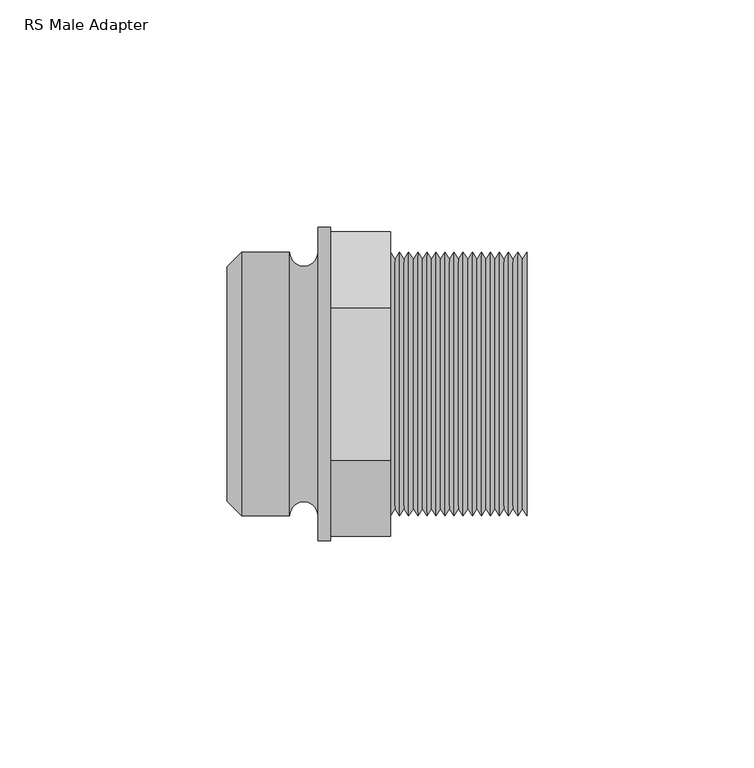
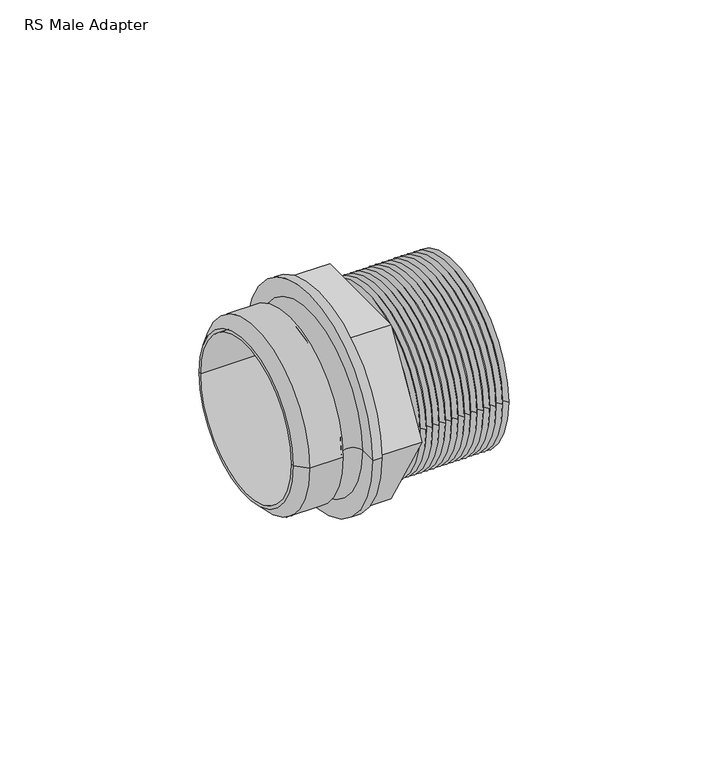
"""IFC4 building model written with IfcOpenShell, lengths in millimetres: pipe fitting geometry, RS Male Adapter : Superpipe RS2 MT Adapter 2”."""

import ifcopenshell
import ifcopenshell.guid

model = None  # the IFC model being written
_history = None  # IfcOwnerHistory: only IFC2X3 demands one
_inside = {}  # id of a spatial element -> (the spatial element, [elements in it])
_under = {}  # id of a project, library or spatial element -> (it, [spatial elements below it])
_declared = {}  # id of a project -> (the project, [libraries it declares])
_typed = {}  # id of a type object -> (the type object, [elements of that type])
_made_of = {}  # id of a material, layer set ... -> (it, [elements and type objects made of it])


def new_model(schema):
    """Start an empty IFC model of exactly this schema.

    Asked for "IFC4X3", IfcOpenShell would pick the latest addendum, in which some entities
    have other attributes; the version numbers below select the first issue.
    IFC2X3 requires an IfcOwnerHistory on every rooted entity: one is made here for all.
    """
    global model, _history
    if schema == "IFC4X3":
        model = ifcopenshell.file(schema_version=(4, 3, 0, 0))
    else:
        model = ifcopenshell.file(schema=schema)
    _inside.clear()
    _under.clear()
    _declared.clear()
    _typed.clear()
    _made_of.clear()
    _history = None
    if model.schema == "IFC2X3":
        org = make("IfcOrganization", Name="unknown")
        user = make(
            "IfcPersonAndOrganization",
            ThePerson=make("IfcPerson", FamilyName="unknown"),
            TheOrganization=org,
        )
        app = make(
            "IfcApplication",
            ApplicationDeveloper=org,
            Version="unknown",
            ApplicationFullName="unknown",
            ApplicationIdentifier="unknown",
        )
        _history = make(
            "IfcOwnerHistory",
            OwningUser=user,
            OwningApplication=app,
            ChangeAction="ADDED",
            CreationDate=0,
        )
    return model


def make(cls, **values):
    """One entity of the class cls with the attributes given. An attribute that is None is left unset."""
    return model.create_entity(
        cls, **{name: value for name, value in values.items() if value is not None}
    )


def rooted(cls, **values):
    """An entity with a GlobalId (a new one), such as an element, a storey or a relation."""
    return make(cls, GlobalId=ifcopenshell.guid.new(), OwnerHistory=_history, **values)


def si_unit(unit_type, name, prefix=None):
    """IfcSIUnit, for example si_unit("LENGTHUNIT", "METRE", prefix="MILLI")."""
    return make("IfcSIUnit", UnitType=unit_type, Prefix=prefix, Name=name)


def assignment(units):
    """IfcUnitAssignment: the units of a project."""
    return None if units is None else make("IfcUnitAssignment", Units=units)


def point(xyz):
    """IfcCartesianPoint."""
    return None if xyz is None else make("IfcCartesianPoint", Coordinates=xyz)


def direction(xyz):
    """IfcDirection."""
    return None if xyz is None else make("IfcDirection", DirectionRatios=xyz)


def frame(location, z_axis=None, x_axis=None):
    """IfcAxis2Placement3D, a coordinate frame: its origin and axes. An axis left out is left unset."""
    return make(
        "IfcAxis2Placement3D",
        Location=point(location),
        Axis=direction(z_axis),
        RefDirection=direction(x_axis),
    )


def frame_2d(location, x_axis=None):
    """IfcAxis2Placement2D, a coordinate frame in the plane: its origin and x axis."""
    return make(
        "IfcAxis2Placement2D", Location=point(location), RefDirection=direction(x_axis)
    )


def origin():
    """The frame at (0, 0, 0) with its axes left unset."""
    return frame((0.0, 0.0, 0.0))


def origin_2d():
    """The frame at (0, 0) in the plane with its x axis left unset."""
    return frame_2d((0.0, 0.0))


def place(relative_to, where):
    """IfcLocalPlacement: puts the frame where relative to a parent placement (None: the world)."""
    return make(
        "IfcLocalPlacement", PlacementRelTo=relative_to, RelativePlacement=where
    )


def context(
    kind, dimensions, precision=None, world=None, true_north=None, identifier=None
):
    """IfcGeometricRepresentationContext, for example the 3D "Model" context."""
    return make(
        "IfcGeometricRepresentationContext",
        ContextIdentifier=identifier,
        ContextType=kind,
        CoordinateSpaceDimension=dimensions,
        Precision=precision,
        WorldCoordinateSystem=world,
        TrueNorth=true_north,
    )


def project(units=None, contexts=None):
    """IfcProject with its units and contexts."""
    return rooted(
        "IfcProject",
        Name="project",
        RepresentationContexts=contexts,
        UnitsInContext=assignment(units),
    )


def spatial(cls, under=None, at=None, **own):
    """A site, building, storey or space (cls), placed at a placement, below another one or the project."""
    s = rooted(cls, ObjectPlacement=at, **own)
    if under is not None:
        _under.setdefault(under.id(), (under, []))[1].append(s)
    return s


def polyline(points):
    """IfcPolyline through the points."""
    return make("IfcPolyline", Points=[point(p) for p in points])


def circle_curve(where, radius):
    """IfcCircle in the frame where."""
    return make("IfcCircle", Position=where, Radius=radius)


def ellipse_curve(where, semi_axis1, semi_axis2):
    """IfcEllipse in the frame where."""
    return make(
        "IfcEllipse", Position=where, SemiAxis1=semi_axis1, SemiAxis2=semi_axis2
    )


def trimmed(basis, trim1, trim2, sense, master):
    """IfcTrimmedCurve: the piece of a basis curve between two trims."""
    return make(
        "IfcTrimmedCurve",
        BasisCurve=basis,
        Trim1=trim1,
        Trim2=trim2,
        SenseAgreement=sense,
        MasterRepresentation=master,
    )


def segment(curve, same_sense, transition):
    """IfcCompositeCurveSegment."""
    return make(
        "IfcCompositeCurveSegment",
        Transition=transition,
        SameSense=same_sense,
        ParentCurve=curve,
    )


def composite_curve(segments, self_intersect=None):
    """IfcCompositeCurve: segments joined end to end."""
    return make("IfcCompositeCurve", Segments=segments, SelfIntersect=self_intersect)


def outline(outer, holes=None, kind="AREA"):
    """IfcArbitraryClosedProfileDef: a profile drawn as a closed curve; with holes, ...WithVoids."""
    if holes is None:
        return make("IfcArbitraryClosedProfileDef", ProfileType=kind, OuterCurve=outer)
    return make(
        "IfcArbitraryProfileDefWithVoids",
        ProfileType=kind,
        OuterCurve=outer,
        InnerCurves=holes,
    )


def extrude(swept, where, along, depth):
    """IfcExtrudedAreaSolid: the profile swept, set in the frame where, extruded along a direction by depth."""
    return make(
        "IfcExtrudedAreaSolid",
        SweptArea=swept,
        Position=where,
        ExtrudedDirection=direction(along),
        Depth=depth,
    )


def shape(context_of_items, identifier, shape_type, items):
    """IfcShapeRepresentation: the items that make up one representation, for example the "Body"."""
    return make(
        "IfcShapeRepresentation",
        ContextOfItems=context_of_items,
        RepresentationIdentifier=identifier,
        RepresentationType=shape_type,
        Items=items,
    )


def source(mapping_origin, context_of_items, identifier, shape_type, items):
    """IfcRepresentationMap: a shape defined once, which mapped items show again and again."""
    return make(
        "IfcRepresentationMap",
        MappingOrigin=mapping_origin,
        MappedRepresentation=shape(context_of_items, identifier, shape_type, items),
    )


def transform(
    local_origin,
    x_axis=None,
    y_axis=None,
    z_axis=None,
    scale=None,
    scale2=None,
    scale3=None,
    uniform=True,
):
    """IfcCartesianTransformationOperator3D, or its non-uniform kind. x_axis, y_axis, z_axis: its Axis1, 2, 3."""
    if uniform:
        return make(
            "IfcCartesianTransformationOperator3D",
            Axis1=direction(x_axis),
            Axis2=direction(y_axis),
            LocalOrigin=point(local_origin),
            Scale=scale,
            Axis3=direction(z_axis),
        )
    return make(
        "IfcCartesianTransformationOperator3DnonUniform",
        Axis1=direction(x_axis),
        Axis2=direction(y_axis),
        LocalOrigin=point(local_origin),
        Scale=scale,
        Axis3=direction(z_axis),
        Scale2=scale2,
        Scale3=scale3,
    )


def mapped(mapping_source, mapping_target):
    """IfcMappedItem: shows the shape of a source again, moved by a transform."""
    return make(
        "IfcMappedItem", MappingSource=mapping_source, MappingTarget=mapping_target
    )


def made_of(thing, what):
    """Note that an element or type object is made of a material, layer set ...; save() writes the relation."""
    if what is not None:
        _made_of.setdefault(what.id(), (what, []))[1].append(thing)
    return thing


def element(
    cls,
    number,
    at=None,
    inside=None,
    cuts=None,
    type_object=None,
    material=None,
    context=None,
    identifier="Body",
    shape_type=None,
    held_by="IfcProductDefinitionShape",
    body=None,
    shapes=None,
    **own,
):
    """One element of the class cls, such as IfcWall. Its Tag is "e" and its number.

    at: its placement. inside: the storey or other place that contains it. cuts: it is an
    opening in that element (IfcRelVoidsElement). A single representation is given by context,
    identifier, shape_type and body (its items); several are given by shapes. held_by: the class
    of the entity that holds the representations. save() writes the other relations.
    """
    e = rooted(cls, Tag="e%d" % number, ObjectPlacement=at, **own)
    if body is not None:
        shapes = [shape(context, identifier, shape_type, body)]
    if shapes is not None:
        e.Representation = make(held_by, Representations=shapes)
    if inside is not None:
        _inside.setdefault(inside.id(), (inside, []))[1].append(e)
    if cuts is not None:
        rooted(
            "IfcRelVoidsElement", RelatingBuildingElement=cuts, RelatedOpeningElement=e
        )
    if type_object is not None:
        _typed.setdefault(type_object.id(), (type_object, []))[1].append(e)
    return made_of(e, material)


def aggregate(whole, parts):
    """IfcRelAggregates: a whole, such as a stair, and the parts it consists of."""
    return rooted("IfcRelAggregates", RelatingObject=whole, RelatedObjects=parts)


def save(model, path):
    """Write the relations noted so far, then the file.

    IfcRelAggregates (storeys below a building ...), IfcRelContainedInSpatialStructure (elements
    in a storey), IfcRelDefinesByType, IfcRelAssociatesMaterial and IfcRelDeclares: one each for
    every whole, place, type object, material and project.
    """
    for whole, parts in _under.values():
        aggregate(whole, parts)
    for where, things in _inside.values():
        rooted(
            "IfcRelContainedInSpatialStructure",
            RelatedElements=things,
            RelatingStructure=where,
        )
    for kind, things in _typed.values():
        rooted("IfcRelDefinesByType", RelatedObjects=things, RelatingType=kind)
    for what, things in _made_of.values():
        rooted("IfcRelAssociatesMaterial", RelatedObjects=things, RelatingMaterial=what)
    for by, libraries in _declared.values():
        rooted("IfcRelDeclares", RelatingContext=by, RelatedDefinitions=libraries)
    model.write(path)


def plane_surface(at):
    """IfcPlane: the flat surface through the origin of the frame at, square to its z axis."""
    return make("IfcPlane", Position=at)


def cylinder_surface(at, radius):
    """IfcCylindricalSurface: all points at the distance radius from the z axis of the frame at."""
    return make("IfcCylindricalSurface", Position=at, Radius=radius)


def revolved_surface(curve, axis_point, axis_direction):
    """IfcSurfaceOfRevolution: the curve turned about the line through axis_point along axis_direction."""
    return make(
        "IfcSurfaceOfRevolution",
        SweptCurve=make("IfcArbitraryOpenProfileDef", ProfileType="CURVE", Curve=curve),
        AxisPosition=make("IfcAxis1Placement", Location=point(axis_point), Axis=direction(axis_direction)),
    )


def advanced_brep(points, edges, surfaces, faces):
    """IfcAdvancedBrep: a solid bounded by faces that lie on surfaces and meet in shared edges.

    An edge is (start, end): straight between two places in points (the first is 0);
    or (start, end, curve); or (start, end, curve, False) where it runs against its curve.
    A face is (place in surfaces, loops), or (place, loops, False) where it looks against
    its surface's normal. A loop lists edges by number (the first is 1), with a minus sign
    where the edge is run from its end to its start. The first loop is the outer one.
    """
    corners = [point(p) for p in points]
    vertices = [make("IfcVertexPoint", VertexGeometry=c) for c in corners]
    made = []
    for start, end, *more in edges:
        made.append(
            make(
                "IfcEdgeCurve",
                EdgeStart=vertices[start],
                EdgeEnd=vertices[end],
                EdgeGeometry=more[0] if more else make("IfcPolyline", Points=[corners[start], corners[end]]),
                SameSense=more[1] if len(more) > 1 else True,
            )
        )
    hull = []
    for where, loops, *sense in faces:
        bounds = []
        for j, loop in enumerate(loops):
            ring = [make("IfcOrientedEdge", EdgeElement=made[abs(k) - 1], Orientation=k > 0) for k in loop]
            bounds.append(
                make(
                    "IfcFaceOuterBound" if j == 0 else "IfcFaceBound",
                    Bound=make("IfcEdgeLoop", EdgeList=ring),
                    Orientation=True,
                )
            )
        hull.append(make("IfcAdvancedFace", Bounds=bounds, FaceSurface=surfaces[where], SameSense=sense[0] if sense else True))
    return make("IfcAdvancedBrep", Outer=make("IfcClosedShell", CfsFaces=hull))


def rs_male_adapter_99ed5b1f(model_context):
    return source(origin(), model_context, "Body", "SolidModel", [
        extrude(outline(polyline([(-33.4863156, 0.0), (-16.7431578, 29.0), (16.7431578, 29.0), (33.4863156, 0.0), (16.7431578, -29.0), (-16.7431578, -29.0), (-33.4863156, 0.0)]), holes=[composite_curve([segment(trimmed(circle_curve(origin_2d(), 24.8), [point((0.0, 24.8))], [point((0.0, -24.8))], True, "CARTESIAN"), True, "CONTINUOUS"), segment(trimmed(circle_curve(origin_2d(), 24.8), [point((0.0, -24.8))], [point((0.0, 24.8))], True, "CARTESIAN"), True, "CONTINUOUS")], self_intersect=False)]), frame((22.8, 0.0, 0.0), z_axis=(1.0, 0.0, 0.0), x_axis=(0.0, 1.0, 0.0)), (0.0, 0.0, 1.0), 13.2),
        advanced_brep(
        [(66.0, -29.0, 0.0), (66.0, 29.0, 0.0), (66.0, 24.8, 0.0), (66.0, -24.8, 0.0), (36.0, -24.8, 0.0), (36.0, 24.8, 0.0), (36.0, 29.0, 0.0), (36.0, -29.0, 0.0), (65.0, -27.5, 0.0), (65.0, 27.5, 0.0), (64.0, -29.0, 0.0), (64.0, 29.0, 0.0), (63.0, -27.5, 0.0), (63.0, 27.5, 0.0), (62.0, -29.0, 0.0), (62.0, 29.0, 0.0), (61.0, -27.5, 0.0), (61.0, 27.5, 0.0), (60.0, -29.0, 0.0), (60.0, 29.0, 0.0), (59.0, -27.5, 0.0), (59.0, 27.5, 0.0), (58.0, -29.0, 0.0), (58.0, 29.0, 0.0), (57.0, -27.5, 0.0), (57.0, 27.5, 0.0), (56.0, -29.0, 0.0), (56.0, 29.0, 0.0), (55.0, -27.5, 0.0), (55.0, 27.5, 0.0), (54.0, -29.0, 0.0), (54.0, 29.0, 0.0), (53.0, -27.5, 0.0), (53.0, 27.5, 0.0), (52.0, -29.0, 0.0), (52.0, 29.0, 0.0), (51.0, -27.5, 0.0), (51.0, 27.5, 0.0), (50.0, -29.0, 0.0), (50.0, 29.0, 0.0), (49.0, -27.5, 0.0), (49.0, 27.5, 0.0), (48.0, -29.0, 0.0), (48.0, 29.0, 0.0), (47.0, -27.5, 0.0), (47.0, 27.5, 0.0), (46.0, -29.0, 0.0), (46.0, 29.0, 0.0), (45.0, -27.5, 0.0), (45.0, 27.5, 0.0), (44.0, -29.0, 0.0), (44.0, 29.0, 0.0), (43.0, -27.5, 0.0), (43.0, 27.5, 0.0), (42.0, -29.0, 0.0), (42.0, 29.0, 0.0), (41.0, -27.5, 0.0), (41.0, 27.5, 0.0), (40.0, -29.0, 0.0), (40.0, 29.0, 0.0), (39.0, -27.5, 0.0), (39.0, 27.5, 0.0), (38.0, -29.0, 0.0), (38.0, 29.0, 0.0), (37.0, -27.5, 0.0), (37.0, 27.5, 0.0)],
        [
            (0, 1, circle_curve(frame((66.0, 0.0, 0.0), z_axis=(1.0, 0.0, 0.0), x_axis=(0.0, 1.0, 0.0)), 29.0)),
            (1, 2),
            (2, 3, circle_curve(frame((66.0, 0.0, 0.0), z_axis=(-1.0, 0.0, 0.0), x_axis=(0.0, 1.0, 0.0)), 24.8)),
            (3, 0),
            (4, 5, circle_curve(frame((36.0, 0.0, 0.0), z_axis=(1.0, 0.0, 0.0), x_axis=(0.0, 1.0, 0.0)), 24.8)),
            (5, 6),
            (6, 7, circle_curve(frame((36.0, 0.0, 0.0), z_axis=(-1.0, 0.0, 0.0), x_axis=(0.0, 1.0, 0.0)), 29.0)),
            (7, 4),
            (5, 4, circle_curve(frame((36.0, 0.0, 0.0), z_axis=(1.0, 0.0, 0.0), x_axis=(0.0, 1.0, 0.0)), 24.8)),
            (7, 6, circle_curve(frame((36.0, 0.0, 0.0), z_axis=(-1.0, 0.0, 0.0), x_axis=(0.0, 1.0, 0.0)), 29.0)),
            (1, 0, circle_curve(frame((66.0, 0.0, 0.0), z_axis=(1.0, 0.0, 0.0), x_axis=(0.0, 1.0, 0.0)), 29.0)),
            (3, 2, circle_curve(frame((66.0, 0.0, 0.0), z_axis=(-1.0, 0.0, 0.0), x_axis=(0.0, 1.0, 0.0)), 24.8)),
            (2, 5),
            (4, 3),
            (8, 9, circle_curve(frame((65.0, 0.0, 0.0), z_axis=(1.0, 0.0, 0.0), x_axis=(0.0, 1.0, 0.0)), 27.5)),
            (9, 1),
            (0, 8),
            (9, 8, circle_curve(frame((65.0, 0.0, 0.0), z_axis=(1.0, 0.0, 0.0), x_axis=(0.0, 1.0, 0.0)), 27.5)),
            (10, 11, circle_curve(frame((64.0, 0.0, 0.0), z_axis=(1.0, 0.0, 0.0), x_axis=(0.0, 1.0, 0.0)), 29.0)),
            (11, 9),
            (8, 10),
            (11, 10, circle_curve(frame((64.0, 0.0, 0.0), z_axis=(1.0, 0.0, 0.0), x_axis=(0.0, 1.0, 0.0)), 29.0)),
            (12, 13, circle_curve(frame((63.0, 0.0, 0.0), z_axis=(1.0, 0.0, 0.0), x_axis=(0.0, 1.0, 0.0)), 27.5)),
            (13, 11),
            (10, 12),
            (13, 12, circle_curve(frame((63.0, 0.0, 0.0), z_axis=(1.0, 0.0, 0.0), x_axis=(0.0, 1.0, 0.0)), 27.5)),
            (14, 15, circle_curve(frame((62.0, 0.0, 0.0), z_axis=(1.0, 0.0, 0.0), x_axis=(0.0, 1.0, 0.0)), 29.0)),
            (15, 13),
            (12, 14),
            (15, 14, circle_curve(frame((62.0, 0.0, 0.0), z_axis=(1.0, 0.0, 0.0), x_axis=(0.0, 1.0, 0.0)), 29.0)),
            (16, 17, circle_curve(frame((61.0, 0.0, 0.0), z_axis=(1.0, 0.0, 0.0), x_axis=(0.0, 1.0, 0.0)), 27.5)),
            (17, 15),
            (14, 16),
            (17, 16, circle_curve(frame((61.0, 0.0, 0.0), z_axis=(1.0, 0.0, 0.0), x_axis=(0.0, 1.0, 0.0)), 27.5)),
            (18, 19, circle_curve(frame((60.0, 0.0, 0.0), z_axis=(1.0, 0.0, 0.0), x_axis=(0.0, 1.0, 0.0)), 29.0)),
            (19, 17),
            (16, 18),
            (19, 18, circle_curve(frame((60.0, 0.0, 0.0), z_axis=(1.0, 0.0, 0.0), x_axis=(0.0, 1.0, 0.0)), 29.0)),
            (20, 21, circle_curve(frame((59.0, 0.0, 0.0), z_axis=(1.0, 0.0, 0.0), x_axis=(0.0, 1.0, 0.0)), 27.5)),
            (21, 19),
            (18, 20),
            (21, 20, circle_curve(frame((59.0, 0.0, 0.0), z_axis=(1.0, 0.0, 0.0), x_axis=(0.0, 1.0, 0.0)), 27.5)),
            (22, 23, circle_curve(frame((58.0, 0.0, 0.0), z_axis=(1.0, 0.0, 0.0), x_axis=(0.0, 1.0, 0.0)), 29.0)),
            (23, 21),
            (20, 22),
            (23, 22, circle_curve(frame((58.0, 0.0, 0.0), z_axis=(1.0, 0.0, 0.0), x_axis=(0.0, 1.0, 0.0)), 29.0)),
            (24, 25, circle_curve(frame((57.0, 0.0, 0.0), z_axis=(1.0, 0.0, 0.0), x_axis=(0.0, 1.0, 0.0)), 27.5)),
            (25, 23),
            (22, 24),
            (25, 24, circle_curve(frame((57.0, 0.0, 0.0), z_axis=(1.0, 0.0, 0.0), x_axis=(0.0, 1.0, 0.0)), 27.5)),
            (26, 27, circle_curve(frame((56.0, 0.0, 0.0), z_axis=(1.0, 0.0, 0.0), x_axis=(0.0, 1.0, 0.0)), 29.0)),
            (27, 25),
            (24, 26),
            (27, 26, circle_curve(frame((56.0, 0.0, 0.0), z_axis=(1.0, 0.0, 0.0), x_axis=(0.0, 1.0, 0.0)), 29.0)),
            (28, 29, circle_curve(frame((55.0, 0.0, 0.0), z_axis=(1.0, 0.0, 0.0), x_axis=(0.0, 1.0, 0.0)), 27.5)),
            (29, 27),
            (26, 28),
            (29, 28, circle_curve(frame((55.0, 0.0, 0.0), z_axis=(1.0, 0.0, 0.0), x_axis=(0.0, 1.0, 0.0)), 27.5)),
            (30, 31, circle_curve(frame((54.0, 0.0, 0.0), z_axis=(1.0, 0.0, 0.0), x_axis=(0.0, 1.0, 0.0)), 29.0)),
            (31, 29),
            (28, 30),
            (31, 30, circle_curve(frame((54.0, 0.0, 0.0), z_axis=(1.0, 0.0, 0.0), x_axis=(0.0, 1.0, 0.0)), 29.0)),
            (32, 33, circle_curve(frame((53.0, 0.0, 0.0), z_axis=(1.0, 0.0, 0.0), x_axis=(0.0, 1.0, 0.0)), 27.5)),
            (33, 31),
            (30, 32),
            (33, 32, circle_curve(frame((53.0, 0.0, 0.0), z_axis=(1.0, 0.0, 0.0), x_axis=(0.0, 1.0, 0.0)), 27.5)),
            (34, 35, circle_curve(frame((52.0, 0.0, 0.0), z_axis=(1.0, 0.0, 0.0), x_axis=(0.0, 1.0, 0.0)), 29.0)),
            (35, 33),
            (32, 34),
            (35, 34, circle_curve(frame((52.0, 0.0, 0.0), z_axis=(1.0, 0.0, 0.0), x_axis=(0.0, 1.0, 0.0)), 29.0)),
            (36, 37, circle_curve(frame((51.0, 0.0, 0.0), z_axis=(1.0, 0.0, 0.0), x_axis=(0.0, 1.0, 0.0)), 27.5)),
            (37, 35),
            (34, 36),
            (37, 36, circle_curve(frame((51.0, 0.0, 0.0), z_axis=(1.0, 0.0, 0.0), x_axis=(0.0, 1.0, 0.0)), 27.5)),
            (38, 39, circle_curve(frame((50.0, 0.0, 0.0), z_axis=(1.0, 0.0, 0.0), x_axis=(0.0, 1.0, 0.0)), 29.0)),
            (39, 37),
            (36, 38),
            (39, 38, circle_curve(frame((50.0, 0.0, 0.0), z_axis=(1.0, 0.0, 0.0), x_axis=(0.0, 1.0, 0.0)), 29.0)),
            (40, 41, circle_curve(frame((49.0, 0.0, 0.0), z_axis=(1.0, 0.0, 0.0), x_axis=(0.0, 1.0, 0.0)), 27.5)),
            (41, 39),
            (38, 40),
            (41, 40, circle_curve(frame((49.0, 0.0, 0.0), z_axis=(1.0, 0.0, 0.0), x_axis=(0.0, 1.0, 0.0)), 27.5)),
            (42, 43, circle_curve(frame((48.0, 0.0, 0.0), z_axis=(1.0, 0.0, 0.0), x_axis=(0.0, 1.0, 0.0)), 29.0)),
            (43, 41),
            (40, 42),
            (43, 42, circle_curve(frame((48.0, 0.0, 0.0), z_axis=(1.0, 0.0, 0.0), x_axis=(0.0, 1.0, 0.0)), 29.0)),
            (44, 45, circle_curve(frame((47.0, 0.0, 0.0), z_axis=(1.0, 0.0, 0.0), x_axis=(0.0, 1.0, 0.0)), 27.5)),
            (45, 43),
            (42, 44),
            (45, 44, circle_curve(frame((47.0, 0.0, 0.0), z_axis=(1.0, 0.0, 0.0), x_axis=(0.0, 1.0, 0.0)), 27.5)),
            (46, 47, circle_curve(frame((46.0, 0.0, 0.0), z_axis=(1.0, 0.0, 0.0), x_axis=(0.0, 1.0, 0.0)), 29.0)),
            (47, 45),
            (44, 46),
            (47, 46, circle_curve(frame((46.0, 0.0, 0.0), z_axis=(1.0, 0.0, 0.0), x_axis=(0.0, 1.0, 0.0)), 29.0)),
            (48, 49, circle_curve(frame((45.0, 0.0, 0.0), z_axis=(1.0, 0.0, 0.0), x_axis=(0.0, 1.0, 0.0)), 27.5)),
            (49, 47),
            (46, 48),
            (49, 48, circle_curve(frame((45.0, 0.0, 0.0), z_axis=(1.0, 0.0, 0.0), x_axis=(0.0, 1.0, 0.0)), 27.5)),
            (50, 51, circle_curve(frame((44.0, 0.0, 0.0), z_axis=(1.0, 0.0, 0.0), x_axis=(0.0, 1.0, 0.0)), 29.0)),
            (51, 49),
            (48, 50),
            (51, 50, circle_curve(frame((44.0, 0.0, 0.0), z_axis=(1.0, 0.0, 0.0), x_axis=(0.0, 1.0, 0.0)), 29.0)),
            (52, 53, circle_curve(frame((43.0, 0.0, 0.0), z_axis=(1.0, 0.0, 0.0), x_axis=(0.0, 1.0, 0.0)), 27.5)),
            (53, 51),
            (50, 52),
            (53, 52, circle_curve(frame((43.0, 0.0, 0.0), z_axis=(1.0, 0.0, 0.0), x_axis=(0.0, 1.0, 0.0)), 27.5)),
            (54, 55, circle_curve(frame((42.0, 0.0, 0.0), z_axis=(1.0, 0.0, 0.0), x_axis=(0.0, 1.0, 0.0)), 29.0)),
            (55, 53),
            (52, 54),
            (55, 54, circle_curve(frame((42.0, 0.0, 0.0), z_axis=(1.0, 0.0, 0.0), x_axis=(0.0, 1.0, 0.0)), 29.0)),
            (56, 57, circle_curve(frame((41.0, 0.0, 0.0), z_axis=(1.0, 0.0, 0.0), x_axis=(0.0, 1.0, 0.0)), 27.5)),
            (57, 55),
            (54, 56),
            (57, 56, circle_curve(frame((41.0, 0.0, 0.0), z_axis=(1.0, 0.0, 0.0), x_axis=(0.0, 1.0, 0.0)), 27.5)),
            (58, 59, circle_curve(frame((40.0, 0.0, 0.0), z_axis=(1.0, 0.0, 0.0), x_axis=(0.0, 1.0, 0.0)), 29.0)),
            (59, 57),
            (56, 58),
            (59, 58, circle_curve(frame((40.0, 0.0, 0.0), z_axis=(1.0, 0.0, 0.0), x_axis=(0.0, 1.0, 0.0)), 29.0)),
            (60, 61, circle_curve(frame((39.0, 0.0, 0.0), z_axis=(1.0, 0.0, 0.0), x_axis=(0.0, 1.0, 0.0)), 27.5)),
            (61, 59),
            (58, 60),
            (61, 60, circle_curve(frame((39.0, 0.0, 0.0), z_axis=(1.0, 0.0, 0.0), x_axis=(0.0, 1.0, 0.0)), 27.5)),
            (62, 63, circle_curve(frame((38.0, 0.0, 0.0), z_axis=(1.0, 0.0, 0.0), x_axis=(0.0, 1.0, 0.0)), 29.0)),
            (63, 61),
            (60, 62),
            (63, 62, circle_curve(frame((38.0, 0.0, 0.0), z_axis=(1.0, 0.0, 0.0), x_axis=(0.0, 1.0, 0.0)), 29.0)),
            (64, 65, circle_curve(frame((37.0, 0.0, 0.0), z_axis=(1.0, 0.0, 0.0), x_axis=(0.0, 1.0, 0.0)), 27.5)),
            (65, 63),
            (62, 64),
            (65, 64, circle_curve(frame((37.0, 0.0, 0.0), z_axis=(1.0, 0.0, 0.0), x_axis=(0.0, 1.0, 0.0)), 27.5)),
            (6, 65),
            (64, 7),
        ],
        [
            plane_surface(frame((66.0, 0.0, 0.0), z_axis=(1.0, 0.0, 0.0), x_axis=(0.0, 1.0, 0.0))),
            plane_surface(frame((36.0, 0.0, 0.0), z_axis=(-1.0, 0.0, 0.0), x_axis=(0.0, 1.0, 0.0))),
            revolved_surface(polyline([(36.0, 24.8, 0.0), (66.0, 24.8, 0.0)]), (2000.0, 0.0, 0.0), (-1.0, 0.0, 0.0)),
            revolved_surface(polyline([(66.0, 29.0, 0.0), (65.0, 27.5, 0.0)]), (2000.0, 0.0, 0.0), (-1.0, 0.0, 0.0)),
            revolved_surface(polyline([(65.0, 27.5, 0.0), (64.0, 29.0, 0.0)]), (2000.0, 0.0, 0.0), (-1.0, 0.0, 0.0)),
            revolved_surface(polyline([(64.0, 29.0, 0.0), (63.0, 27.5, 0.0)]), (2000.0, 0.0, 0.0), (-1.0, 0.0, 0.0)),
            revolved_surface(polyline([(63.0, 27.5, 0.0), (62.0, 29.0, 0.0)]), (2000.0, 0.0, 0.0), (-1.0, 0.0, 0.0)),
            revolved_surface(polyline([(62.0, 29.0, 0.0), (61.0, 27.5, 0.0)]), (2000.0, 0.0, 0.0), (-1.0, 0.0, 0.0)),
            revolved_surface(polyline([(61.0, 27.5, 0.0), (60.0, 29.0, 0.0)]), (2000.0, 0.0, 0.0), (-1.0, 0.0, 0.0)),
            revolved_surface(polyline([(60.0, 29.0, 0.0), (59.0, 27.5, 0.0)]), (2000.0, 0.0, 0.0), (-1.0, 0.0, 0.0)),
            revolved_surface(polyline([(59.0, 27.5, 0.0), (58.0, 29.0, 0.0)]), (2000.0, 0.0, 0.0), (-1.0, 0.0, 0.0)),
            revolved_surface(polyline([(58.0, 29.0, 0.0), (57.0, 27.5, 0.0)]), (2000.0, 0.0, 0.0), (-1.0, 0.0, 0.0)),
            revolved_surface(polyline([(57.0, 27.5, 0.0), (56.0, 29.0, 0.0)]), (2000.0, 0.0, 0.0), (-1.0, 0.0, 0.0)),
            revolved_surface(polyline([(56.0, 29.0, 0.0), (55.0, 27.5, 0.0)]), (2000.0, 0.0, 0.0), (-1.0, 0.0, 0.0)),
            revolved_surface(polyline([(55.0, 27.5, 0.0), (54.0, 29.0, 0.0)]), (2000.0, 0.0, 0.0), (-1.0, 0.0, 0.0)),
            revolved_surface(polyline([(54.0, 29.0, 0.0), (53.0, 27.5, 0.0)]), (2000.0, 0.0, 0.0), (-1.0, 0.0, 0.0)),
            revolved_surface(polyline([(53.0, 27.5, 0.0), (52.0, 29.0, 0.0)]), (2000.0, 0.0, 0.0), (-1.0, 0.0, 0.0)),
            revolved_surface(polyline([(52.0, 29.0, 0.0), (51.0, 27.5, 0.0)]), (2000.0, 0.0, 0.0), (-1.0, 0.0, 0.0)),
            revolved_surface(polyline([(51.0, 27.5, 0.0), (50.0, 29.0, 0.0)]), (2000.0, 0.0, 0.0), (-1.0, 0.0, 0.0)),
            revolved_surface(polyline([(50.0, 29.0, 0.0), (49.0, 27.5, 0.0)]), (2000.0, 0.0, 0.0), (-1.0, 0.0, 0.0)),
            revolved_surface(polyline([(49.0, 27.5, 0.0), (48.0, 29.0, 0.0)]), (2000.0, 0.0, 0.0), (-1.0, 0.0, 0.0)),
            revolved_surface(polyline([(48.0, 29.0, 0.0), (47.0, 27.5, 0.0)]), (2000.0, 0.0, 0.0), (-1.0, 0.0, 0.0)),
            revolved_surface(polyline([(47.0, 27.5, 0.0), (46.0, 29.0, 0.0)]), (2000.0, 0.0, 0.0), (-1.0, 0.0, 0.0)),
            revolved_surface(polyline([(46.0, 29.0, 0.0), (45.0, 27.5, 0.0)]), (2000.0, 0.0, 0.0), (-1.0, 0.0, 0.0)),
            revolved_surface(polyline([(45.0, 27.5, 0.0), (44.0, 29.0, 0.0)]), (2000.0, 0.0, 0.0), (-1.0, 0.0, 0.0)),
            revolved_surface(polyline([(44.0, 29.0, 0.0), (43.0, 27.5, 0.0)]), (2000.0, 0.0, 0.0), (-1.0, 0.0, 0.0)),
            revolved_surface(polyline([(43.0, 27.5, 0.0), (42.0, 29.0, 0.0)]), (2000.0, 0.0, 0.0), (-1.0, 0.0, 0.0)),
            revolved_surface(polyline([(42.0, 29.0, 0.0), (41.0, 27.5, 0.0)]), (2000.0, 0.0, 0.0), (-1.0, 0.0, 0.0)),
            revolved_surface(polyline([(41.0, 27.5, 0.0), (40.0, 29.0, 0.0)]), (2000.0, 0.0, 0.0), (-1.0, 0.0, 0.0)),
            revolved_surface(polyline([(40.0, 29.0, 0.0), (39.0, 27.5, 0.0)]), (2000.0, 0.0, 0.0), (-1.0, 0.0, 0.0)),
            revolved_surface(polyline([(39.0, 27.5, 0.0), (38.0, 29.0, 0.0)]), (2000.0, 0.0, 0.0), (-1.0, 0.0, 0.0)),
            revolved_surface(polyline([(38.0, 29.0, 0.0), (37.0, 27.5, 0.0)]), (2000.0, 0.0, 0.0), (-1.0, 0.0, 0.0)),
            revolved_surface(polyline([(37.0, 27.5, 0.0), (36.0, 29.0, 0.0)]), (2000.0, 0.0, 0.0), (-1.0, 0.0, 0.0)),
        ],
        [
            (0, [[1, 2, 3, 4]]),
            (1, [[5, 6, 7, 8]]),
            (1, [[9, -8, 10, -6]]),
            (0, [[11, -4, 12, -2]]),
            (2, [[-3, 13, -5, 14]]),
            (2, [[-12, -14, -9, -13]]),
            (3, [[15, 16, -1, 17]]),
            (3, [[18, -17, -11, -16]]),
            (4, [[19, 20, -15, 21]]),
            (4, [[22, -21, -18, -20]]),
            (5, [[23, 24, -19, 25]]),
            (5, [[26, -25, -22, -24]]),
            (6, [[27, 28, -23, 29]]),
            (6, [[30, -29, -26, -28]]),
            (7, [[31, 32, -27, 33]]),
            (7, [[34, -33, -30, -32]]),
            (8, [[35, 36, -31, 37]]),
            (8, [[38, -37, -34, -36]]),
            (9, [[39, 40, -35, 41]]),
            (9, [[42, -41, -38, -40]]),
            (10, [[43, 44, -39, 45]]),
            (10, [[46, -45, -42, -44]]),
            (11, [[47, 48, -43, 49]]),
            (11, [[50, -49, -46, -48]]),
            (12, [[51, 52, -47, 53]]),
            (12, [[54, -53, -50, -52]]),
            (13, [[55, 56, -51, 57]]),
            (13, [[58, -57, -54, -56]]),
            (14, [[59, 60, -55, 61]]),
            (14, [[62, -61, -58, -60]]),
            (15, [[63, 64, -59, 65]]),
            (15, [[66, -65, -62, -64]]),
            (16, [[67, 68, -63, 69]]),
            (16, [[70, -69, -66, -68]]),
            (17, [[71, 72, -67, 73]]),
            (17, [[74, -73, -70, -72]]),
            (18, [[75, 76, -71, 77]]),
            (18, [[78, -77, -74, -76]]),
            (19, [[79, 80, -75, 81]]),
            (19, [[82, -81, -78, -80]]),
            (20, [[83, 84, -79, 85]]),
            (20, [[86, -85, -82, -84]]),
            (21, [[87, 88, -83, 89]]),
            (21, [[90, -89, -86, -88]]),
            (22, [[91, 92, -87, 93]]),
            (22, [[94, -93, -90, -92]]),
            (23, [[95, 96, -91, 97]]),
            (23, [[98, -97, -94, -96]]),
            (24, [[99, 100, -95, 101]]),
            (24, [[102, -101, -98, -100]]),
            (25, [[103, 104, -99, 105]]),
            (25, [[106, -105, -102, -104]]),
            (26, [[107, 108, -103, 109]]),
            (26, [[110, -109, -106, -108]]),
            (27, [[111, 112, -107, 113]]),
            (27, [[114, -113, -110, -112]]),
            (28, [[115, 116, -111, 117]]),
            (28, [[118, -117, -114, -116]]),
            (29, [[119, 120, -115, 121]]),
            (29, [[122, -121, -118, -120]]),
            (30, [[123, 124, -119, 125]]),
            (30, [[126, -125, -122, -124]]),
            (31, [[127, 128, -123, 129]]),
            (31, [[130, -129, -126, -128]]),
            (32, [[-7, 131, -127, 132]]),
            (32, [[-10, -132, -130, -131]]),
        ],
    ),
        advanced_brep(
        [(20.0, -34.5, 0.0), (20.0, 34.5, 0.0), (22.8, 34.5, 0.0), (22.8, -34.5, 0.0), (20.0, -29.0, 0.0), (20.0, 29.0, 0.0), (22.8, -24.8, 0.0), (22.8, 24.8, 0.0), (0.0, 24.8, 0.0), (0.0, -24.8, 0.0), (0.0, -25.8, 0.0), (0.0, 25.8, 0.0), (3.2, 29.0, 0.0), (3.2, -29.0, 0.0), (13.8, -29.0, 0.0), (13.8, 29.0, 0.0)],
        [
            (0, 1, circle_curve(frame((20.0, 0.0, 0.0), z_axis=(1.0, 0.0, 0.0), x_axis=(0.0, 1.0, 0.0)), 34.5)),
            (1, 2),
            (2, 3, circle_curve(frame((22.8, 0.0, 0.0), z_axis=(-1.0, 0.0, 0.0), x_axis=(0.0, 1.0, 0.0)), 34.5)),
            (3, 0),
            (1, 0, circle_curve(frame((20.0, 0.0, 0.0), z_axis=(1.0, 0.0, 0.0), x_axis=(0.0, 1.0, 0.0)), 34.5)),
            (3, 2, circle_curve(frame((22.8, 0.0, 0.0), z_axis=(-1.0, 0.0, 0.0), x_axis=(0.0, 1.0, 0.0)), 34.5)),
            (4, 5, circle_curve(frame((20.0, 0.0, 0.0), z_axis=(1.0, 0.0, 0.0), x_axis=(0.0, 1.0, 0.0)), 29.0)),
            (5, 1),
            (0, 4),
            (5, 4, circle_curve(frame((20.0, 0.0, 0.0), z_axis=(1.0, 0.0, 0.0), x_axis=(0.0, 1.0, 0.0)), 29.0)),
            (6, 7, circle_curve(frame((22.8, 0.0, 0.0), z_axis=(1.0, 0.0, 0.0), x_axis=(0.0, 1.0, 0.0)), 24.8)),
            (7, 8),
            (8, 9, circle_curve(frame((0.0, 0.0, 0.0), z_axis=(-1.0, 0.0, 0.0), x_axis=(0.0, 1.0, 0.0)), 24.8)),
            (9, 6),
            (7, 6, circle_curve(frame((22.8, 0.0, 0.0), z_axis=(1.0, 0.0, 0.0), x_axis=(0.0, 1.0, 0.0)), 24.8)),
            (9, 8, circle_curve(frame((0.0, 0.0, 0.0), z_axis=(-1.0, 0.0, 0.0), x_axis=(0.0, 1.0, 0.0)), 24.8)),
            (2, 7),
            (6, 3),
            (10, 11, circle_curve(frame((0.0, 0.0, 0.0), z_axis=(1.0, 0.0, 0.0), x_axis=(0.0, 1.0, 0.0)), 25.8)),
            (11, 12),
            (12, 13, circle_curve(frame((3.2, 0.0, 0.0), z_axis=(-1.0, 0.0, 0.0), x_axis=(0.0, 1.0, 0.0)), 29.0)),
            (13, 10),
            (11, 10, circle_curve(frame((0.0, 0.0, 0.0), z_axis=(1.0, 0.0, 0.0), x_axis=(0.0, 1.0, 0.0)), 25.8)),
            (13, 12, circle_curve(frame((3.2, 0.0, 0.0), z_axis=(-1.0, 0.0, 0.0), x_axis=(0.0, 1.0, 0.0)), 29.0)),
            (8, 11),
            (10, 9),
            (14, 15, circle_curve(frame((13.8, 0.0, 0.0), z_axis=(1.0, 0.0, 0.0), x_axis=(0.0, 1.0, 0.0)), 29.0)),
            (15, 5, circle_curve(frame((16.9, 29.0, 0.0), z_axis=(0.0, 0.0, 1.0), x_axis=(1.0, 0.0, 0.0)), 3.1)),
            (4, 14, circle_curve(frame((16.9, -29.0, 0.0), z_axis=(0.0, 0.0, 1.0), x_axis=(1.0, 0.0, 0.0)), 3.1)),
            (15, 14, circle_curve(frame((13.8, 0.0, 0.0), z_axis=(1.0, 0.0, 0.0), x_axis=(0.0, 1.0, 0.0)), 29.0)),
            (12, 15),
            (14, 13),
        ],
        [
            cylinder_surface(frame((1986.0, 0.0, 0.0), z_axis=(-1.0, 0.0, 0.0), x_axis=(0.0, 1.0, 0.0)), 34.5),
            plane_surface(frame((20.0, 0.0, 0.0), z_axis=(-1.0, 0.0, 0.0), x_axis=(0.0, 1.0, 0.0))),
            revolved_surface(polyline([(0.0, 24.8, 0.0), (22.799999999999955, 24.8, 0.0)]), (1986.0, 0.0, 0.0), (-1.0, 0.0, 0.0)),
            plane_surface(frame((22.8, 0.0, 0.0), z_axis=(1.0, 0.0, 0.0), x_axis=(0.0, 1.0, 0.0))),
            revolved_surface(polyline([(3.2, 29.0, 0.0), (0.0, 25.8, 0.0)]), (1986.0, 0.0, 0.0), (-1.0, 0.0, 0.0)),
            plane_surface(frame((0.0, 0.0, 0.0), z_axis=(-1.0, 0.0, 0.0), x_axis=(0.0, 1.0, 0.0))),
            revolved_surface(trimmed(ellipse_curve(frame((16.9, 29.0, 0.0), z_axis=(0.0, 0.0, -1.0), x_axis=(1.0, 0.0, 0.0)), 3.1, 3.1), [point((20.0, 29.0, 0.0))], [point((13.8, 29.0, 0.0))], True, "CARTESIAN"), (1986.0, 0.0, 0.0), (-1.0, 0.0, 0.0)),
            cylinder_surface(frame((1986.0, 0.0, 0.0), z_axis=(-1.0, 0.0, 0.0), x_axis=(0.0, 1.0, 0.0)), 29.0),
        ],
        [
            (0, [[1, 2, 3, 4]]),
            (0, [[5, -4, 6, -2]]),
            (1, [[7, 8, -1, 9]]),
            (1, [[10, -9, -5, -8]]),
            (2, [[11, 12, 13, 14]]),
            (2, [[15, -14, 16, -12]]),
            (3, [[-3, 17, -11, 18]]),
            (3, [[-6, -18, -15, -17]]),
            (4, [[19, 20, 21, 22]]),
            (4, [[23, -22, 24, -20]]),
            (5, [[-13, 25, -19, 26]]),
            (5, [[-16, -26, -23, -25]]),
            (6, [[27, 28, -7, 29]]),
            (6, [[30, -29, -10, -28]]),
            (7, [[-21, 31, -27, 32]]),
            (7, [[-24, -32, -30, -31]]),
        ],
    ),
    ])


if __name__ == "__main__":
    model = new_model("IFC4")
    model_context = context("Model", 3, world=origin())
    ifc_project = project(units=[si_unit("LENGTHUNIT", "METRE", prefix="MILLI")], contexts=[model_context])
    site = spatial("IfcSite", under=ifc_project)
    building = spatial("IfcBuilding", under=site)
    placement = place(None, origin())
    rs_male_adapter_shape = rs_male_adapter_99ed5b1f(model_context)
    element("IfcPipeFitting", 1, ObjectType="RS Male Adapter : Superpipe RS2 MT Adapter 2”", at=placement, inside=building, context=model_context, shape_type="MappedRepresentation", body=[
        mapped(rs_male_adapter_shape, transform((0.0, 0.0, 0.0), x_axis=(1.0, 0.0, 0.0), y_axis=(0.0, 1.0, 0.0), z_axis=(0.0, 0.0, 1.0))),
    ])
    save(model, "model.ifc")
